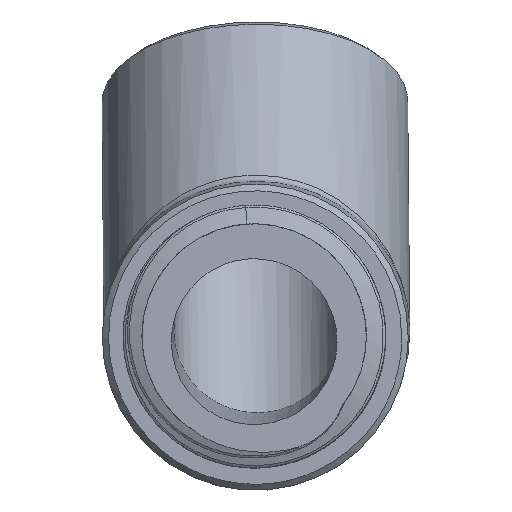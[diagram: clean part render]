
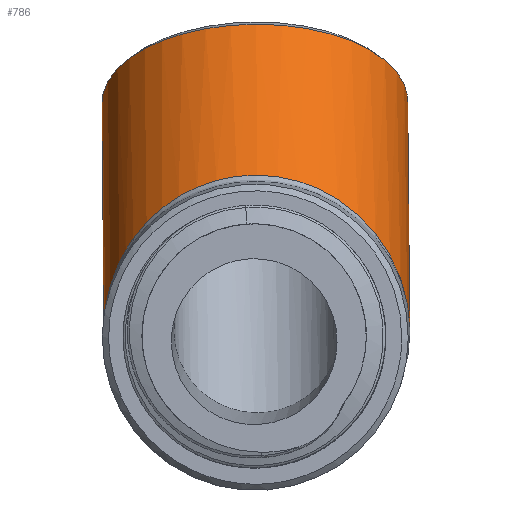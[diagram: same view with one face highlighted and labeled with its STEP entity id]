
A CAD part, front view. The second image highlights one B-rep face of the part: STEP entity #786.
In plain terms, the highlighted cylindrical face has radius 12 mm (diameter 24 mm), a full revolution.
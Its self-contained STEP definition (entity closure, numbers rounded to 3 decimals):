
#78=ELLIPSE('',#855,13.975,12.);
#79=ELLIPSE('',#857,12.605,12.);
#80=ELLIPSE('',#858,13.975,12.);
#96=FACE_OUTER_BOUND('',#145,.T.);
#145=EDGE_LOOP('',(#545,#546,#547,#548,#549,#550,#551,#552,#553,#554));
#198=CIRCLE('',#852,12.);
#199=CIRCLE('',#853,12.);
#200=CIRCLE('',#854,12.);
#201=CIRCLE('',#856,13.239);
#230=B_SPLINE_CURVE_WITH_KNOTS('',3,(#1289,#1290,#1291,#1292,#1293,#1294,
#1295,#1296,#1297,#1298,#1299,#1300,#1301,#1302,#1303,#1304,#1305,#1306,
#1307,#1308,#1309,#1310,#1311,#1312,#1313,#1314,#1315,#1316,#1317,#1318,
#1319,#1320,#1321,#1322,#1323,#1324,#1325,#1326,#1327,#1328,#1329,#1330,
#1331,#1332,#1333,#1334),.UNSPECIFIED.,.F.,.F.,(4,3,3,3,3,3,3,3,3,3,3,3,
3,3,3,4),(0.,0.115,0.232,0.293,0.342,
0.396,0.455,0.506,0.561,0.622,
0.688,0.745,0.8,0.865,0.984,
1.),.UNSPECIFIED.);
#264=LINE('',#1283,#293);
#293=VECTOR('',#919,12.);
#334=VERTEX_POINT('',#1276);
#335=VERTEX_POINT('',#1277);
#336=VERTEX_POINT('',#1279);
#337=VERTEX_POINT('',#1282);
#338=VERTEX_POINT('',#1284);
#339=VERTEX_POINT('',#1286);
#340=VERTEX_POINT('',#1288);
#341=VERTEX_POINT('',#1335);
#417=EDGE_CURVE('',#334,#335,#198,.T.);
#418=EDGE_CURVE('',#336,#334,#199,.T.);
#419=EDGE_CURVE('',#335,#336,#200,.T.);
#420=EDGE_CURVE('',#335,#337,#264,.T.);
#421=EDGE_CURVE('',#338,#337,#78,.T.);
#422=EDGE_CURVE('',#339,#338,#201,.T.);
#423=EDGE_CURVE('',#340,#339,#230,.T.);
#424=EDGE_CURVE('',#341,#340,#79,.T.);
#425=EDGE_CURVE('',#337,#341,#80,.T.);
#545=ORIENTED_EDGE('',*,*,#417,.F.);
#546=ORIENTED_EDGE('',*,*,#418,.F.);
#547=ORIENTED_EDGE('',*,*,#419,.F.);
#548=ORIENTED_EDGE('',*,*,#420,.T.);
#549=ORIENTED_EDGE('',*,*,#421,.F.);
#550=ORIENTED_EDGE('',*,*,#422,.F.);
#551=ORIENTED_EDGE('',*,*,#423,.F.);
#552=ORIENTED_EDGE('',*,*,#424,.F.);
#553=ORIENTED_EDGE('',*,*,#425,.F.);
#554=ORIENTED_EDGE('',*,*,#420,.F.);
#779=CYLINDRICAL_SURFACE('',#851,12.);
#786=ADVANCED_FACE('',(#96),#779,.T.);
#851=AXIS2_PLACEMENT_3D('',#1275,#911,#912);
#852=AXIS2_PLACEMENT_3D('',#1278,#913,#914);
#853=AXIS2_PLACEMENT_3D('',#1280,#915,#916);
#854=AXIS2_PLACEMENT_3D('',#1281,#917,#918);
#855=AXIS2_PLACEMENT_3D('',#1285,#920,#921);
#856=AXIS2_PLACEMENT_3D('',#1287,#922,#923);
#857=AXIS2_PLACEMENT_3D('',#1336,#924,#925);
#858=AXIS2_PLACEMENT_3D('',#1337,#926,#927);
#911=DIRECTION('center_axis',(0.007,-0.507,-0.862));
#912=DIRECTION('ref_axis',(0.898,0.382,-0.218));
#913=DIRECTION('center_axis',(-0.007,0.507,0.862));
#914=DIRECTION('ref_axis',(0.986,-0.138,0.089));
#915=DIRECTION('center_axis',(-0.007,0.507,0.862));
#916=DIRECTION('ref_axis',(0.986,-0.138,0.089));
#917=DIRECTION('center_axis',(-0.007,0.507,0.862));
#918=DIRECTION('ref_axis',(0.986,-0.138,0.089));
#919=DIRECTION('',(0.007,-0.507,-0.862));
#920=DIRECTION('center_axis',(-0.001,-0.877,-0.48));
#921=DIRECTION('ref_axis',(0.016,0.48,-0.877));
#922=DIRECTION('center_axis',(0.006,-0.747,-0.665));
#923=DIRECTION('ref_axis',(1.,-0.006,0.016));
#924=DIRECTION('center_axis',(0.003,-0.747,-0.665));
#925=DIRECTION('ref_axis',(0.016,0.665,-0.747));
#926=DIRECTION('center_axis',(-0.001,-0.877,-0.48));
#927=DIRECTION('ref_axis',(0.016,0.48,-0.877));
#1275=CARTESIAN_POINT('Origin',(5.867,-22.69,-18.28));
#1276=CARTESIAN_POINT('',(16.497,-7.69,-3.204));
#1277=CARTESIAN_POINT('',(-5.056,-16.865,2.018));
#1278=CARTESIAN_POINT('Origin',(5.721,-12.277,-0.593));
#1279=CARTESIAN_POINT('',(0.017,-21.396,4.728));
#1280=CARTESIAN_POINT('Origin',(5.721,-12.277,-0.593));
#1281=CARTESIAN_POINT('Origin',(5.721,-12.277,-0.593));
#1282=CARTESIAN_POINT('',(-4.93,-25.821,-13.195));
#1283=CARTESIAN_POINT('',(-4.909,-27.277,-15.668));
#1284=CARTESIAN_POINT('',(17.869,-22.979,-18.439));
#1285=CARTESIAN_POINT('Origin',(5.87,-22.878,-18.598));
#1286=CARTESIAN_POINT('',(17.87,-22.793,-18.648));
#1287=CARTESIAN_POINT('Origin',(4.631,-22.901,-18.644));
#1288=CARTESIAN_POINT('',(16.659,-19.176,-22.712));
#1289=CARTESIAN_POINT('Ctrl Pts',(16.659,-19.176,-22.712));
#1290=CARTESIAN_POINT('Ctrl Pts',(16.751,-19.306,-22.565));
#1291=CARTESIAN_POINT('Ctrl Pts',(16.837,-19.438,-22.417));
#1292=CARTESIAN_POINT('Ctrl Pts',(16.918,-19.571,-22.267));
#1293=CARTESIAN_POINT('Ctrl Pts',(16.999,-19.705,-22.116));
#1294=CARTESIAN_POINT('Ctrl Pts',(17.076,-19.841,-21.964));
#1295=CARTESIAN_POINT('Ctrl Pts',(17.147,-19.977,-21.811));
#1296=CARTESIAN_POINT('Ctrl Pts',(17.184,-20.049,-21.73));
#1297=CARTESIAN_POINT('Ctrl Pts',(17.22,-20.122,-21.648));
#1298=CARTESIAN_POINT('Ctrl Pts',(17.255,-20.194,-21.567));
#1299=CARTESIAN_POINT('Ctrl Pts',(17.283,-20.253,-21.501));
#1300=CARTESIAN_POINT('Ctrl Pts',(17.31,-20.311,-21.435));
#1301=CARTESIAN_POINT('Ctrl Pts',(17.336,-20.37,-21.369));
#1302=CARTESIAN_POINT('Ctrl Pts',(17.364,-20.434,-21.297));
#1303=CARTESIAN_POINT('Ctrl Pts',(17.392,-20.499,-21.224));
#1304=CARTESIAN_POINT('Ctrl Pts',(17.418,-20.564,-21.151));
#1305=CARTESIAN_POINT('Ctrl Pts',(17.447,-20.634,-21.072));
#1306=CARTESIAN_POINT('Ctrl Pts',(17.474,-20.705,-20.992));
#1307=CARTESIAN_POINT('Ctrl Pts',(17.5,-20.776,-20.912));
#1308=CARTESIAN_POINT('Ctrl Pts',(17.523,-20.839,-20.842));
#1309=CARTESIAN_POINT('Ctrl Pts',(17.544,-20.901,-20.772));
#1310=CARTESIAN_POINT('Ctrl Pts',(17.565,-20.964,-20.702));
#1311=CARTESIAN_POINT('Ctrl Pts',(17.587,-21.03,-20.627));
#1312=CARTESIAN_POINT('Ctrl Pts',(17.608,-21.098,-20.551));
#1313=CARTESIAN_POINT('Ctrl Pts',(17.627,-21.165,-20.476));
#1314=CARTESIAN_POINT('Ctrl Pts',(17.649,-21.239,-20.393));
#1315=CARTESIAN_POINT('Ctrl Pts',(17.669,-21.313,-20.31));
#1316=CARTESIAN_POINT('Ctrl Pts',(17.688,-21.387,-20.226));
#1317=CARTESIAN_POINT('Ctrl Pts',(17.708,-21.468,-20.135));
#1318=CARTESIAN_POINT('Ctrl Pts',(17.727,-21.549,-20.044));
#1319=CARTESIAN_POINT('Ctrl Pts',(17.744,-21.63,-19.953));
#1320=CARTESIAN_POINT('Ctrl Pts',(17.759,-21.701,-19.873));
#1321=CARTESIAN_POINT('Ctrl Pts',(17.772,-21.772,-19.793));
#1322=CARTESIAN_POINT('Ctrl Pts',(17.785,-21.844,-19.713));
#1323=CARTESIAN_POINT('Ctrl Pts',(17.796,-21.911,-19.637));
#1324=CARTESIAN_POINT('Ctrl Pts',(17.807,-21.979,-19.561));
#1325=CARTESIAN_POINT('Ctrl Pts',(17.816,-22.047,-19.485));
#1326=CARTESIAN_POINT('Ctrl Pts',(17.827,-22.127,-19.395));
#1327=CARTESIAN_POINT('Ctrl Pts',(17.836,-22.207,-19.305));
#1328=CARTESIAN_POINT('Ctrl Pts',(17.844,-22.287,-19.215));
#1329=CARTESIAN_POINT('Ctrl Pts',(17.858,-22.435,-19.049));
#1330=CARTESIAN_POINT('Ctrl Pts',(17.866,-22.583,-18.883));
#1331=CARTESIAN_POINT('Ctrl Pts',(17.869,-22.732,-18.716));
#1332=CARTESIAN_POINT('Ctrl Pts',(17.87,-22.752,-18.693));
#1333=CARTESIAN_POINT('Ctrl Pts',(17.87,-22.772,-18.671));
#1334=CARTESIAN_POINT('Ctrl Pts',(17.87,-22.793,-18.648));
#1335=CARTESIAN_POINT('',(-6.128,-22.776,-18.757));
#1336=CARTESIAN_POINT('Origin',(5.87,-22.878,-18.598));
#1337=CARTESIAN_POINT('Origin',(5.87,-22.878,-18.598));
